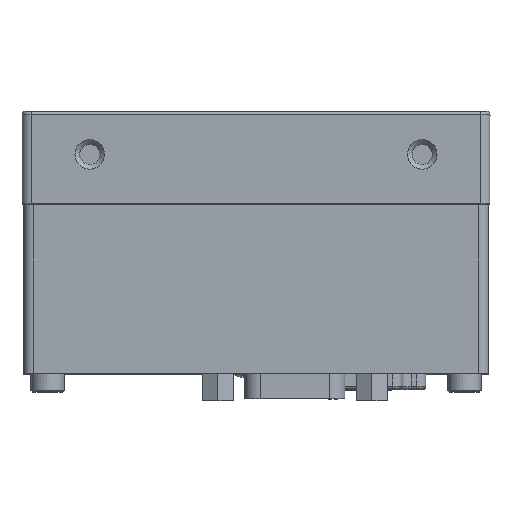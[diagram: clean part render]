
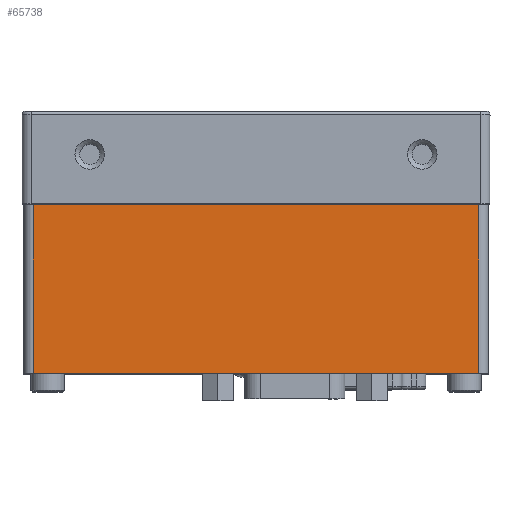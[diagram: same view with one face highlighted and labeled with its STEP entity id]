
A CAD part, top view. The second image highlights one B-rep face of the part: STEP entity #65738.
In plain terms, the highlighted planar face has unit normal (0, 0, 1).
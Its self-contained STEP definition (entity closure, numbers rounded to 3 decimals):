
#5099=LINE($,#97211,#11786);
#5103=LINE($,#97226,#11790);
#5104=LINE($,#97227,#11791);
#5105=LINE($,#97228,#11792);
#11786=VECTOR($,#75513,72.4);
#11790=VECTOR($,#75525,72.4);
#11791=VECTOR($,#75526,27.385);
#11792=VECTOR($,#75527,27.385);
#17118=PLANE($,#69225);
#20409=FACE_OUTER_BOUND($,#24031,.T.);
#24031=EDGE_LOOP($,(#48411,#48412,#48413,#48414));
#29381=VERTEX_POINT($,#97207);
#29383=VERTEX_POINT($,#97210);
#29389=VERTEX_POINT($,#97224);
#29390=VERTEX_POINT($,#97225);
#36555=EDGE_CURVE($,#29381,#29383,#5099,.T.);
#36562=EDGE_CURVE($,#29389,#29390,#5103,.T.);
#36563=EDGE_CURVE($,#29383,#29390,#5104,.T.);
#36564=EDGE_CURVE($,#29389,#29381,#5105,.T.);
#48411=ORIENTED_EDGE($,*,*,#36562,.T.);
#48412=ORIENTED_EDGE($,*,*,#36563,.F.);
#48413=ORIENTED_EDGE($,*,*,#36555,.F.);
#48414=ORIENTED_EDGE($,*,*,#36564,.F.);
#65738=ADVANCED_FACE($,(#20409),#17118,.T.);
#69225=AXIS2_PLACEMENT_3D($,#97223,#75523,#75524);
#75513=DIRECTION($,(-1.,0.,0.));
#75523=DIRECTION('center_axis',(0.,0.,
1.));
#75524=DIRECTION('ref_axis',(0.,1.,0.));
#75525=DIRECTION($,(-1.,0.,0.));
#75526=DIRECTION($,(0.,1.,0.));
#75527=DIRECTION($,(0.,-1.,0.));
#97207=CARTESIAN_POINT('',(36.2,-56.691,37.7));
#97210=CARTESIAN_POINT('',(-36.2,-56.691,37.7));
#97211=CARTESIAN_POINT($,(37.7,-56.691,37.7));
#97223=CARTESIAN_POINT('Origin',(37.7,-56.691,37.7));
#97224=CARTESIAN_POINT('',(36.2,-29.306,37.7));
#97225=CARTESIAN_POINT('',(-36.2,-29.306,37.7));
#97226=CARTESIAN_POINT($,(18.85,-29.306,37.7));
#97227=CARTESIAN_POINT($,(-36.2,-56.691,37.7));
#97228=CARTESIAN_POINT($,(36.2,-56.691,37.7));
